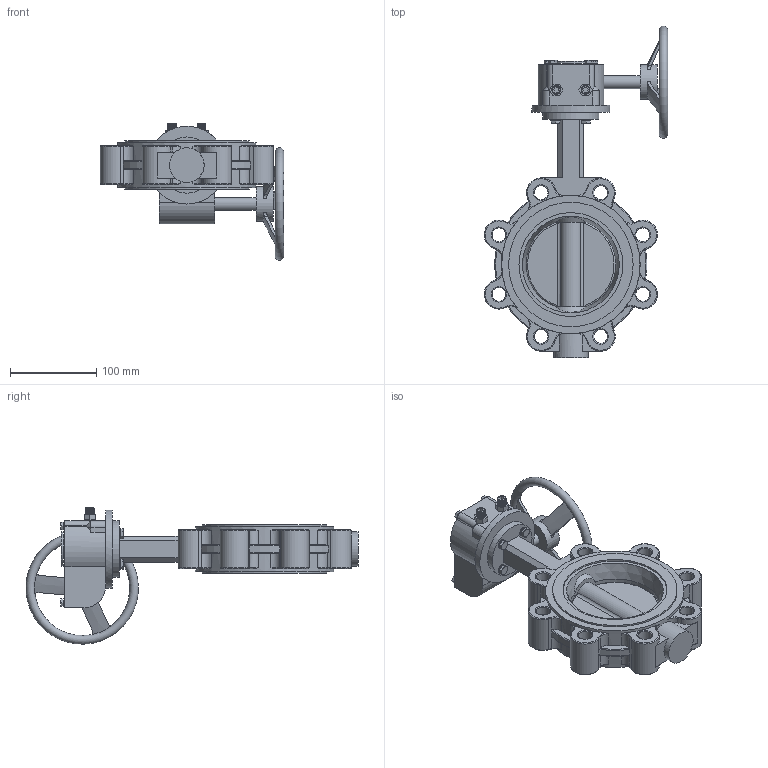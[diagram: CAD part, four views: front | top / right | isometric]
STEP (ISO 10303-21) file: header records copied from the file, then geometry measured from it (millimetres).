
FILE_DESCRIPTION (( 'STEP AP214' ), '1' );
FILE_NAME ('恦謫 等標評概Fig3240-100-16.STEP', '2026-03-20T06:15:49', ( '' ), ( '' ), 'SwSTEP 2.0', 'SolidWorks 2024', '' );
FILE_SCHEMA (( 'AUTOMOTIVE_DESIGN' ));
Length unit declared in the file: millimetre
Products named in the file (1): 涡轮 单夹蝶阀Fig3240-100-16
Bounding box: 212.13 x 383.98 x 157.73 mm (x, y, z)
Volume: 1484616.7 mm3; surface area: 211800.2 mm2
Topology: 1 solids, 2 shells, 743 faces, 1884 edges, 1210 vertices
Faces by surface type: plane 336, cylinder 160, bspline 124, torus 81, cone 42
Full cylindrical faces by diameter (mm): 6 x8, 6.68 x4, 7 x4, 10 x6, 10.68 x4, 15 x1, 15.9 x1, 16 x8, 20 x1, 40 x3, 50 x1, 65 x1, 90 x1, 120.1 x2, 144.1 x2, 160.1 x2
Entity records: 41960 total; most frequent: CARTESIAN_POINT 17256, ORIENTED_EDGE 3586, DIRECTION 3013, EDGE_CURVE 1793, VERTEX_POINT 1184, AXIS2_PLACEMENT_3D 1094, EDGE_LOOP 901, LINE 825
